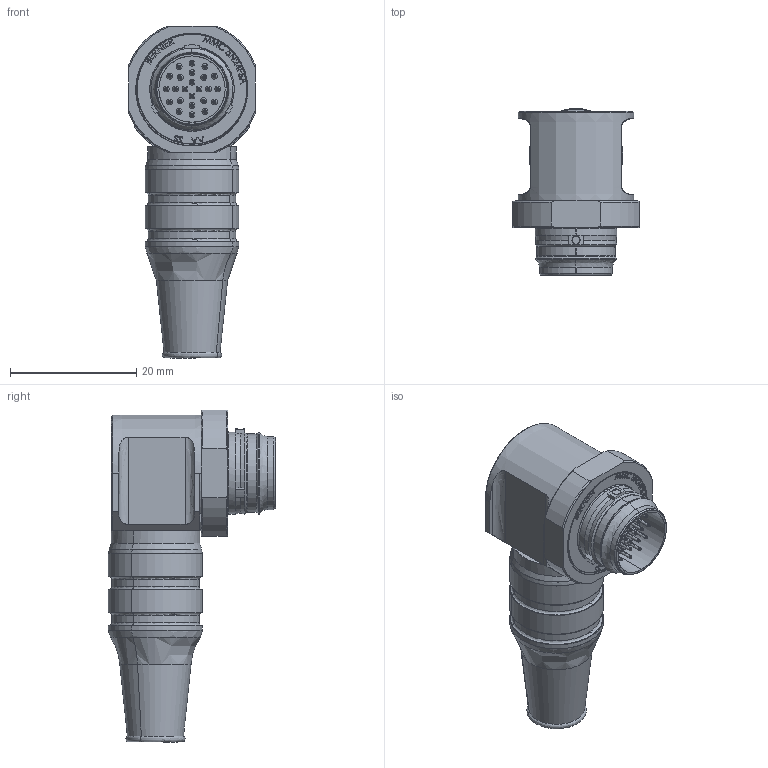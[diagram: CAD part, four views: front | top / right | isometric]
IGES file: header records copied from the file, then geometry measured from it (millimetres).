
Start section: SolidWorks IGES file using analytic representation for surfaces
Global section: file name: C:\Users\dmt\Desktop\Nouveau dossier (2)\MMC 5N24FSA RCBI_MAI.IGS; native system: SolidWorks 2017; preprocessor: SolidWorks 2017; author: dmt; date: 180712.162032; units: millimetre
Bounding box: 20 x 26.5 x 52.65 mm (x, y, z)
Surface area: 3872.6 mm2 (no closed solid volume)
Topology: 0 solids, 0 shells, 830 faces, 5526 edges, 5478 vertices
Faces by surface type: bspline 543, revolution 287
